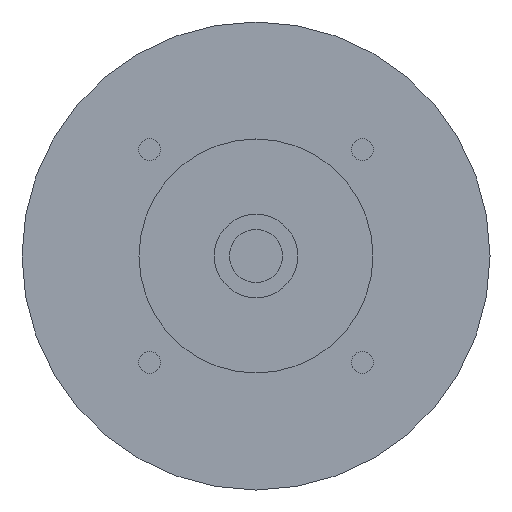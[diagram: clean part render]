
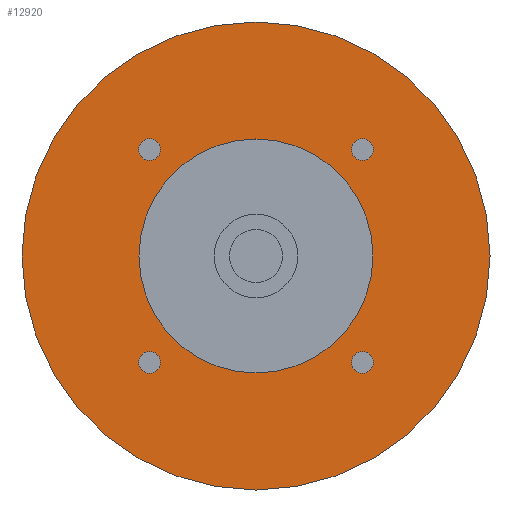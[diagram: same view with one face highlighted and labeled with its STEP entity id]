
A CAD part, left-side view. The second image highlights one B-rep face of the part: STEP entity #12920.
In plain terms, the highlighted planar face has unit normal (-1, 0, 0) as drawn and (0, 0, -1) by its records, which use the part's own axes.
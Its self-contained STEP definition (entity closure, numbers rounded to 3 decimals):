
#11760=CARTESIAN_POINT('',(-70.,0.,-54.7));
#11770=VERTEX_POINT('',#11760);
#11800=CARTESIAN_POINT('',(0.,0.,
-54.7));
#11810=DIRECTION('',(0.,0.,-1.));
#11820=DIRECTION('',(0.,-1.,0.));
#11830=AXIS2_PLACEMENT_3D('',#11800,#11810,#11820);
#11840=CIRCLE('',#11830,70.);
#11850=CARTESIAN_POINT('',(70.,0.,-54.7));
#11860=VERTEX_POINT('',#11850);
#11870=EDGE_CURVE('',#11770,#11860,#11840,.T.);
#11990=CARTESIAN_POINT('',(0.,0.,
-54.7));
#12000=DIRECTION('',(0.,0.,-1.));
#12010=DIRECTION('',(1.,0.,0.));
#12020=AXIS2_PLACEMENT_3D('',#11990,#12000,#12010);
#12030=PLANE('',#12020);
#12040=CARTESIAN_POINT('',(-31.82,31.82,-54.7));
#12050=DIRECTION('',(0.,0.,-1.));
#12060=DIRECTION('',(-1.,0.,0.));
#12070=AXIS2_PLACEMENT_3D('',#12040,#12050,#12060);
#12080=CIRCLE('',#12070,3.25);
#12090=CARTESIAN_POINT('',(-35.07,31.82,-54.7));
#12100=VERTEX_POINT('',#12090);
#12110=CARTESIAN_POINT('',(-28.57,31.82,-54.7));
#12120=VERTEX_POINT('',#12110);
#12130=EDGE_CURVE('',#12100,#12120,#12080,.T.);
#12140=ORIENTED_EDGE('',*,*,#12130,.F.);
#12150=EDGE_CURVE('',#12120,#12100,#12080,.T.);
#12160=ORIENTED_EDGE('',*,*,#12150,.F.);
#12170=EDGE_LOOP('',(#12160,#12140));
#12180=FACE_BOUND('',#12170,.T.);
#12190=CARTESIAN_POINT('',(-31.82,-31.82,-54.7));
#12200=DIRECTION('',(0.,0.,-1.));
#12210=DIRECTION('',(0.,-1.,0.));
#12220=AXIS2_PLACEMENT_3D('',#12190,#12200,#12210);
#12230=CIRCLE('',#12220,3.25);
#12240=CARTESIAN_POINT('',(-31.82,-35.07,-54.7));
#12250=VERTEX_POINT('',#12240);
#12260=CARTESIAN_POINT('',(-31.82,-28.57,-54.7));
#12270=VERTEX_POINT('',#12260);
#12280=EDGE_CURVE('',#12250,#12270,#12230,.T.);
#12290=ORIENTED_EDGE('',*,*,#12280,.F.);
#12300=EDGE_CURVE('',#12270,#12250,#12230,.T.);
#12310=ORIENTED_EDGE('',*,*,#12300,.F.);
#12320=EDGE_LOOP('',(#12310,#12290));
#12330=FACE_BOUND('',#12320,.T.);
#12340=CARTESIAN_POINT('',(0.,0.,
-54.7));
#12350=DIRECTION('',(0.,0.,1.));
#12360=DIRECTION('',(0.,1.,0.));
#12370=AXIS2_PLACEMENT_3D('',#12340,#12350,#12360);
#12380=CIRCLE('',#12370,35.);
#12390=CARTESIAN_POINT('',(-35.,0.,-54.7));
#12400=VERTEX_POINT('',#12390);
#12410=CARTESIAN_POINT('',(35.,0.,-54.7));
#12420=VERTEX_POINT('',#12410);
#12430=EDGE_CURVE('',#12400,#12420,#12380,.T.);
#12440=ORIENTED_EDGE('',*,*,#12430,.T.);
#12450=CARTESIAN_POINT('',(0.,35.,-54.7));
#12460=VERTEX_POINT('',#12450);
#12470=EDGE_CURVE('',#12460,#12400,#12380,.T.);
#12480=ORIENTED_EDGE('',*,*,#12470,.T.);
#12490=EDGE_CURVE('',#12420,#12460,#12380,.T.);
#12500=ORIENTED_EDGE('',*,*,#12490,.T.);
#12510=EDGE_LOOP('',(#12500,#12480,#12440));
#12520=FACE_BOUND('',#12510,.T.);
#12530=CARTESIAN_POINT('',(31.82,-31.82,-54.7));
#12540=DIRECTION('',(0.,0.,-1.));
#12550=DIRECTION('',(1.,0.,0.));
#12560=AXIS2_PLACEMENT_3D('',#12530,#12540,#12550);
#12570=CIRCLE('',#12560,3.25);
#12580=CARTESIAN_POINT('',(35.07,-31.82,-54.7));
#12590=VERTEX_POINT('',#12580);
#12600=CARTESIAN_POINT('',(28.57,-31.82,-54.7));
#12610=VERTEX_POINT('',#12600);
#12620=EDGE_CURVE('',#12590,#12610,#12570,.T.);
#12630=ORIENTED_EDGE('',*,*,#12620,.F.);
#12640=EDGE_CURVE('',#12610,#12590,#12570,.T.);
#12650=ORIENTED_EDGE('',*,*,#12640,.F.);
#12660=EDGE_LOOP('',(#12650,#12630));
#12670=FACE_BOUND('',#12660,.T.);
#12680=CARTESIAN_POINT('',(31.82,31.82,-54.7));
#12690=DIRECTION('',(0.,0.,-1.));
#12700=DIRECTION('',(0.,1.,0.));
#12710=AXIS2_PLACEMENT_3D('',#12680,#12690,#12700);
#12720=CIRCLE('',#12710,3.25);
#12730=CARTESIAN_POINT('',(31.82,35.07,-54.7));
#12740=VERTEX_POINT('',#12730);
#12750=CARTESIAN_POINT('',(31.82,28.57,-54.7));
#12760=VERTEX_POINT('',#12750);
#12770=EDGE_CURVE('',#12740,#12760,#12720,.T.);
#12780=ORIENTED_EDGE('',*,*,#12770,.F.);
#12790=EDGE_CURVE('',#12760,#12740,#12720,.T.);
#12800=ORIENTED_EDGE('',*,*,#12790,.F.);
#12810=EDGE_LOOP('',(#12800,#12780));
#12820=FACE_BOUND('',#12810,.T.);
#12830=ORIENTED_EDGE('',*,*,#11870,.T.);
#12840=CARTESIAN_POINT('',(0.,-70.,-54.7));
#12850=VERTEX_POINT('',#12840);
#12860=EDGE_CURVE('',#12850,#11770,#11840,.T.);
#12870=ORIENTED_EDGE('',*,*,#12860,.T.);
#12880=EDGE_CURVE('',#11860,#12850,#11840,.T.);
#12890=ORIENTED_EDGE('',*,*,#12880,.T.);
#12900=EDGE_LOOP('',(#12890,#12870,#12830));
#12910=FACE_OUTER_BOUND('',#12900,.T.);
#12920=ADVANCED_FACE('',(#12180,#12330,#12520,#12670,#12820,#12910),
#12030,.T.);
